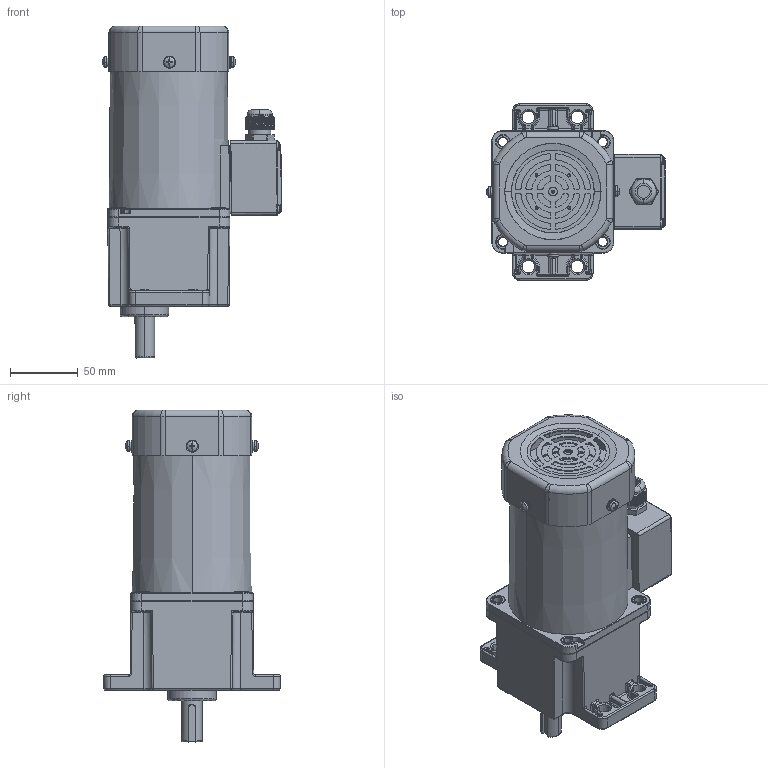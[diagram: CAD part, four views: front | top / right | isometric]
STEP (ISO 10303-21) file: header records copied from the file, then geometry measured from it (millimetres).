
FILE_DESCRIPTION (( 'STEP AP203' ), '1' );
FILE_NAME ('5IK120GU-CFT(5GU3K-200K).STEP', '2023-08-09T02:43:55', ( 'Windows User' ), ( 'P R C' ), 'SwSTEP 2.0', 'SolidWorks 2019', '' );
FILE_SCHEMA (( 'CONFIG_CONTROL_DESIGN' ));
Length unit declared in the file: millimetre
Products named in the file (17): 葩璃 (2) ^__5IK120GU-CFT(5GU3K-200K)(2)_5IK120GU-CFT(5GU3K-200K); 5IK120GU-CFT(5GU3K-200K)(2)^5IK120GU-CFT(5GU3K-200K); 5IK120GU-CFT(5GU3K-200K); ^____5IK120GU-CFT(5GU3K-200K)(2)_5IK120GU-CFT(5GU3K-200K); 葩璃 (4) ^____5IK120GU-CFT(5GU3K-200K)(2)_5IK120GU-CFT(5GU3K-200K); ^_5IK120GU-CFT(5GU3K-200K)(2)_5IK120GU-CFT(5GU3K-200K); 葩璃 (6) ^____5IK120GU-CFT(5GU3K-200K)(2)_5IK120GU-CFT(5GU3K-200K); ^__5IK120GU-CFT(5GU3K-200K)(2)_5IK120GU-CFT(5GU3K-200K); ^5IK120GU-CFT(5GU3K-200K)(2)_5IK120GU-CFT(5GU3K-200K); ^5GU3K-200K_5IK120GU-CFT(5GU3K-200K)(2)_5IK120GU-CFT(5GU3K-200K); 5GU3K-200K^5IK120GU-CFT(5GU3K-200K)(2)_5IK120GU-CFT(5GU3K-200K); ^___5IK120GU-CFT(5GU3K-200K)(2)_5IK120GU-CFT(5GU3K-200K); 葩璃 (5) ^____5IK120GU-CFT(5GU3K-200K)(2)_5IK120GU-CFT(5GU3K-200K); ^_5GU3K-200K_5IK120GU-CFT(5GU3K-200K)(2)_5IK120GU-CFT(5GU3K-200K); 葩璃 (3) ^____5IK120GU-CFT(5GU3K-200K)(2)_5IK120GU-CFT(5GU3K-200K); 葩璃 (2) ^____5IK120GU-CFT(5GU3K-200K)(2)_5IK120GU-CFT(5GU3K-200K)
Assembly tree (16 placements, depth 7):
  5IK120GU-CFT(5GU3K-200K)
    5IK120GU-CFT(5GU3K-200K)(2)^5IK120GU-CFT(5GU3K-200K)
      ^5IK120GU-CFT(5GU3K-200K)(2)_5IK120GU-CFT(5GU3K-200K)
        ^_5IK120GU-CFT(5GU3K-200K)(2)_5IK120GU-CFT(5GU3K-200K)
          ^__5IK120GU-CFT(5GU3K-200K)(2)_5IK120GU-CFT(5GU3K-200K)
            ^___5IK120GU-CFT(5GU3K-200K)(2)_5IK120GU-CFT(5GU3K-200K)
              ^____5IK120GU-CFT(5GU3K-200K)(2)_5IK120GU-CFT(5GU3K-200K)
              葩璃 (2) ^____5IK120GU-CFT(5GU3K-200K)(2)_5IK120GU-CFT(5GU3K-200K)
              葩璃 (3) ^____5IK120GU-CFT(5GU3K-200K)(2)_5IK120GU-CFT(5GU3K-200K)
              葩璃 (4) ^____5IK120GU-CFT(5GU3K-200K)(2)_5IK120GU-CFT(5GU3K-200K)
              葩璃 (5) ^____5IK120GU-CFT(5GU3K-200K)(2)_5IK120GU-CFT(5GU3K-200K)
              葩璃 (6) ^____5IK120GU-CFT(5GU3K-200K)(2)_5IK120GU-CFT(5GU3K-200K)
          ^__5IK120GU-CFT(5GU3K-200K)(2)_5IK120GU-CFT(5GU3K-200K)
          葩璃 (2) ^__5IK120GU-CFT(5GU3K-200K)(2)_5IK120GU-CFT(5GU3K-200K)
      5GU3K-200K^5IK120GU-CFT(5GU3K-200K)(2)_5IK120GU-CFT(5GU3K-200K)
        ^5GU3K-200K_5IK120GU-CFT(5GU3K-200K)(2)_5IK120GU-CFT(5GU3K-200K)
          ^_5GU3K-200K_5IK120GU-CFT(5GU3K-200K)(2)_5IK120GU-CFT(5GU3K-200K)
Bounding box: 131.82 x 129.97 x 244.5 mm (x, y, z)
Volume: 1367747.7 mm3; surface area: 152964.3 mm2
Topology: 21 solids, 21 shells, 1893 faces, 4775 edges, 2916 vertices
Faces by surface type: cylinder 736, cone 403, plane 394, bspline 159, torus 119, sphere 82
Entity records: 70379 total; most frequent: CARTESIAN_POINT 23861, DIRECTION 9640, ORIENTED_EDGE 9434, EDGE_CURVE 4717, AXIS2_PLACEMENT_3D 3956, VERTEX_POINT 2912, CIRCLE 2196, EDGE_LOOP 2007
